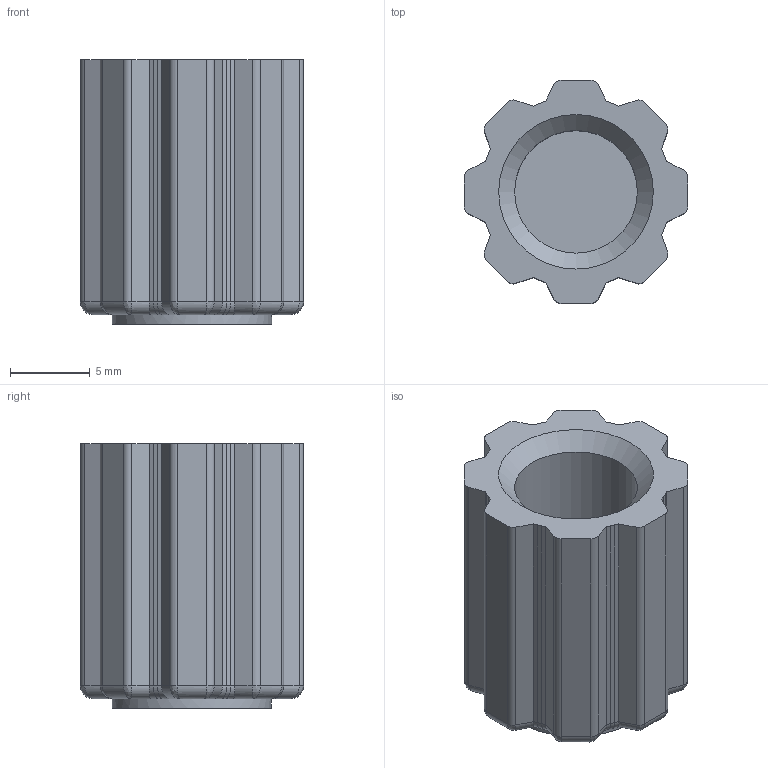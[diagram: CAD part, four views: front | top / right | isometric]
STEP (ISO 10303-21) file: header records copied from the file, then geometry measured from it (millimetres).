
FILE_DESCRIPTION(/* description */ (''),/* implementation_level */ '2;1');
FILE_NAME(/* name */ 'C:/Users/mcjor/3D Objects/6x17 Camera/top thumbscrew.stp',/* time_stamp */ '2021-12-20T20:08:41+01:00',/* author */ (''),/* organization */ (''),/* preprocessor_version */ 'ST-DEVELOPER v15.2',/* originating_system */ 'Autodesk Translator Framework v2.0.0.5431',/* authorisation */ '');
FILE_SCHEMA (('AUTOMOTIVE_DESIGN { 1 0 10303 214 3 1 1 }'));
Length unit declared in the file: centimetre
Products named in the file (1): 75mm cone
Bounding box: 14 x 14 x 16.6 mm (x, y, z)
Volume: 1590.8 mm3; surface area: 1420.6 mm2
Topology: 1 solids, 1 shells, 144 faces, 351 edges, 197 vertices
Faces by surface type: cylinder 67, plane 60, bspline 16, cone 1
Full cylindrical faces by diameter (mm): 3 x1, 7.7 x1, 10 x1
Entity records: 4476 total; most frequent: CARTESIAN_POINT 1248, ORIENTED_EDGE 660, DIRECTION 656, EDGE_CURVE 330, LINE 226, VECTOR 226, AXIS2_PLACEMENT_3D 215, VERTEX_POINT 196
